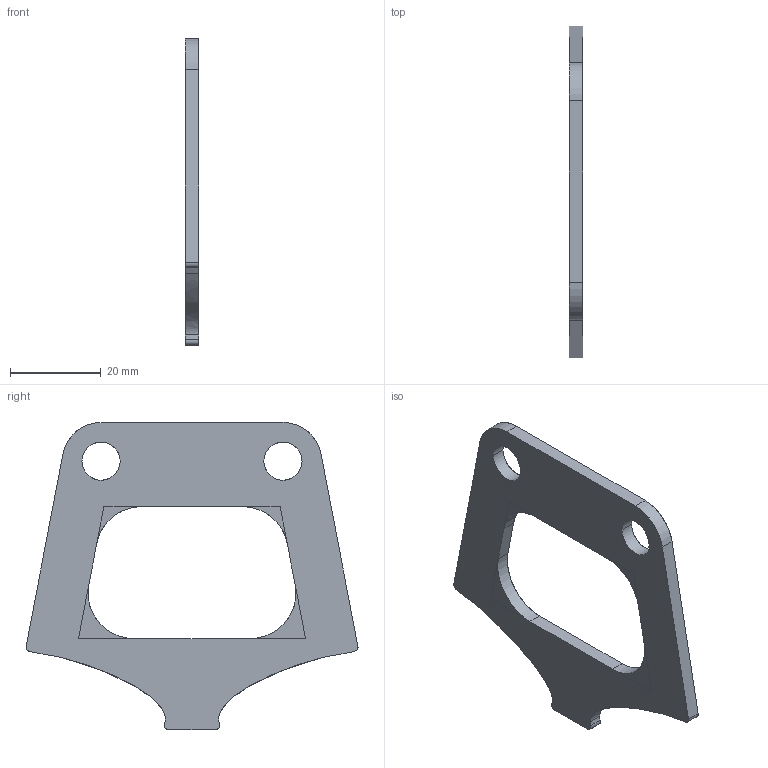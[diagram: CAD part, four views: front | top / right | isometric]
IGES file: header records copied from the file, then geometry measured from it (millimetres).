
Start section: START RECORD GO HERE.
Global section: file name: 20M_SU_07004 (chape rear ohlins F).igs; native system: IBM CATIA IGES - CATIA Version 5 Release 19 ; preprocessor: CATIA Version 5 Release 19 ; author: mik75; organization: LAPTOP-SUH344G9; date: 20200116.193536; units: millimetre
Bounding box: 3 x 72.98 x 67.5 mm (x, y, z)
Surface area: 5983.8 mm2 (no closed solid volume)
Topology: 0 solids, 0 shells, 38 faces, 202 edges, 207 vertices
Faces by surface type: plane 18, revolution 14, extrusion 6
